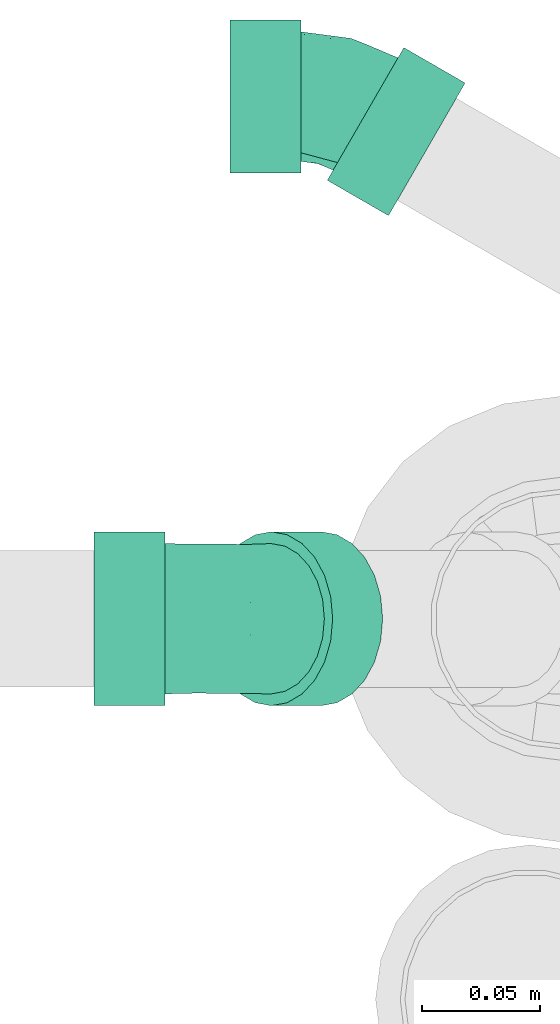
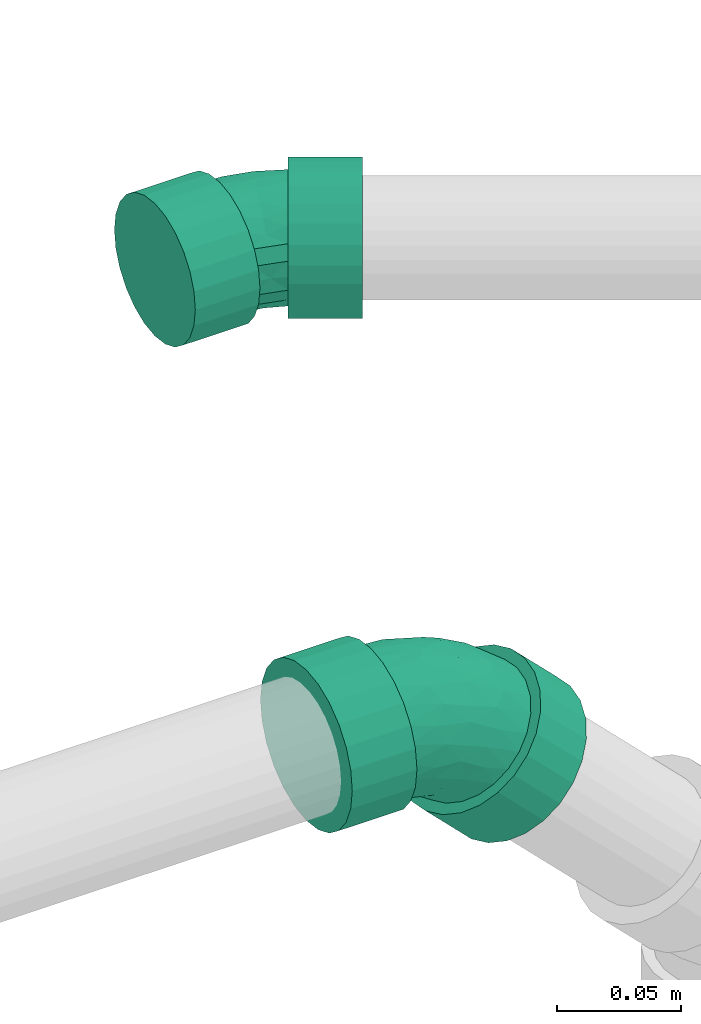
# One storey, part 56 of 78: 2 flow fittings.
"""IFC2X3 building model written with IfcOpenShell, lengths in millimetres."""

import ifcopenshell
import ifcopenshell.guid

model = None  # the IFC model being written
_history = None  # IfcOwnerHistory: only IFC2X3 demands one
_inside = {}  # id of a spatial element -> (the spatial element, [elements in it])
_under = {}  # id of a project, library or spatial element -> (it, [spatial elements below it])
_declared = {}  # id of a project -> (the project, [libraries it declares])
_typed = {}  # id of a type object -> (the type object, [elements of that type])
_made_of = {}  # id of a material, layer set ... -> (it, [elements and type objects made of it])


def new_model(schema):
    """Start an empty IFC model of exactly this schema.

    Asked for "IFC4X3", IfcOpenShell would pick the latest addendum, in which some entities
    have other attributes; the version numbers below select the first issue.
    IFC2X3 requires an IfcOwnerHistory on every rooted entity: one is made here for all.
    """
    global model, _history
    if schema == "IFC4X3":
        model = ifcopenshell.file(schema_version=(4, 3, 0, 0))
    else:
        model = ifcopenshell.file(schema=schema)
    _inside.clear()
    _under.clear()
    _declared.clear()
    _typed.clear()
    _made_of.clear()
    _history = None
    if model.schema == "IFC2X3":
        org = make("IfcOrganization", Name="unknown")
        user = make(
            "IfcPersonAndOrganization",
            ThePerson=make("IfcPerson", FamilyName="unknown"),
            TheOrganization=org,
        )
        app = make(
            "IfcApplication",
            ApplicationDeveloper=org,
            Version="unknown",
            ApplicationFullName="unknown",
            ApplicationIdentifier="unknown",
        )
        _history = make(
            "IfcOwnerHistory",
            OwningUser=user,
            OwningApplication=app,
            ChangeAction="ADDED",
            CreationDate=0,
        )
    return model


def make(cls, **values):
    """One entity of the class cls with the attributes given. An attribute that is None is left unset."""
    return model.create_entity(
        cls, **{name: value for name, value in values.items() if value is not None}
    )


def entity(cls, *values):
    """Any entity or typed value of the class cls, its attributes in the order of the schema. None: left unset."""
    e = model.create_entity(cls)
    for i, value in enumerate(values):
        if value is not None:
            e[i] = value
    return e


def rooted(cls, **values):
    """An entity with a GlobalId (a new one), such as an element, a storey or a relation."""
    return make(cls, GlobalId=ifcopenshell.guid.new(), OwnerHistory=_history, **values)


def si_unit(unit_type, name, prefix=None):
    """IfcSIUnit, for example si_unit("LENGTHUNIT", "METRE", prefix="MILLI")."""
    return make("IfcSIUnit", UnitType=unit_type, Prefix=prefix, Name=name)


def converted_unit(unit_type, name, factor, base, dimensions=None, offset=None):
    """IfcConversionBasedUnit, such as the inch: factor (a typed value) times the base unit."""
    return make(
        "IfcConversionBasedUnit"
        if offset is None
        else "IfcConversionBasedUnitWithOffset",
        ConversionOffset=offset,
        Dimensions=None
        if dimensions is None
        else entity("IfcDimensionalExponents", *dimensions),
        UnitType=unit_type,
        Name=name,
        ConversionFactor=make(
            "IfcMeasureWithUnit", ValueComponent=factor, UnitComponent=base
        ),
    )


def derived_unit(unit_type, elements):
    """IfcDerivedUnit: a product of units, each with its exponent."""
    return make(
        "IfcDerivedUnit",
        Elements=[
            make("IfcDerivedUnitElement", Unit=unit, Exponent=power)
            for unit, power in elements
        ],
        UnitType=unit_type,
    )


def assignment(units):
    """IfcUnitAssignment: the units of a project."""
    return None if units is None else make("IfcUnitAssignment", Units=units)


def point(xyz):
    """IfcCartesianPoint."""
    return None if xyz is None else make("IfcCartesianPoint", Coordinates=xyz)


def direction(xyz):
    """IfcDirection."""
    return None if xyz is None else make("IfcDirection", DirectionRatios=xyz)


def frame(location, z_axis=None, x_axis=None):
    """IfcAxis2Placement3D, a coordinate frame: its origin and axes. An axis left out is left unset."""
    return make(
        "IfcAxis2Placement3D",
        Location=point(location),
        Axis=direction(z_axis),
        RefDirection=direction(x_axis),
    )


def origin_with_axes():
    """The frame at (0, 0, 0) with the z axis (0, 0, 1) and the x axis (1, 0, 0) written out."""
    return frame((0.0, 0.0, 0.0), z_axis=(0.0, 0.0, 1.0), x_axis=(1.0, 0.0, 0.0))


def place(relative_to, where):
    """IfcLocalPlacement: puts the frame where relative to a parent placement (None: the world)."""
    return make(
        "IfcLocalPlacement", PlacementRelTo=relative_to, RelativePlacement=where
    )


def context(
    kind, dimensions, precision=None, world=None, true_north=None, identifier=None
):
    """IfcGeometricRepresentationContext, for example the 3D "Model" context."""
    return make(
        "IfcGeometricRepresentationContext",
        ContextIdentifier=identifier,
        ContextType=kind,
        CoordinateSpaceDimension=dimensions,
        Precision=precision,
        WorldCoordinateSystem=world,
        TrueNorth=true_north,
    )


def subcontext(parent, identifier, kind, view, scale=None):
    """IfcGeometricRepresentationSubContext, for example "Body" below "Model"."""
    return make(
        "IfcGeometricRepresentationSubContext",
        ContextIdentifier=identifier,
        ContextType=kind,
        ParentContext=parent,
        TargetScale=scale,
        TargetView=view,
    )


def project(units=None, contexts=None):
    """IfcProject with its units and contexts."""
    return rooted(
        "IfcProject",
        Name="project",
        RepresentationContexts=contexts,
        UnitsInContext=assignment(units),
    )


def spatial(cls, under=None, at=None, **own):
    """A site, building, storey or space (cls), placed at a placement, below another one or the project."""
    s = rooted(cls, ObjectPlacement=at, **own)
    if under is not None:
        _under.setdefault(under.id(), (under, []))[1].append(s)
    return s


def faces_of(points, faces, orient=None, outer=None):
    """IfcFace entities. A face is a list of loops; a loop is a list of indices into points, from 0.

    orient and outer hold one flag for each loop. By default every Orientation is true, the
    first loop of a face is its IfcFaceOuterBound and the others are IfcFaceBound.
    """
    made = []
    for i, loops in enumerate(faces):
        bounds = []
        for j, loop in enumerate(loops):
            is_outer = j == 0 if outer is None else outer[i][j]
            bounds.append(
                make(
                    "IfcFaceOuterBound" if is_outer else "IfcFaceBound",
                    Bound=make("IfcPolyLoop", Polygon=[points[k] for k in loop]),
                    Orientation=True if orient is None else orient[i][j],
                )
            )
        made.append(make("IfcFace", Bounds=bounds))
    return made


def open_shell(faces, orient=None, outer=None):
    """The faces of one IfcOpenShell. surface_model builds it on its shared points."""
    return ("IfcOpenShell", faces, orient, outer)


def surface_model(cls, points, shells):
    """IfcFaceBasedSurfaceModel or IfcShellBasedSurfaceModel (cls): surfaces that need not close."""
    shared = [point(p) for p in points]
    made = [make(c, CfsFaces=faces_of(shared, fs, o, b)) for c, fs, o, b in shells]
    if cls == "IfcFaceBasedSurfaceModel":
        return make(cls, FbsmFaces=made)
    return make(cls, SbsmBoundary=made)


def shape(context_of_items, identifier, shape_type, items):
    """IfcShapeRepresentation: the items that make up one representation, for example the "Body"."""
    return make(
        "IfcShapeRepresentation",
        ContextOfItems=context_of_items,
        RepresentationIdentifier=identifier,
        RepresentationType=shape_type,
        Items=items,
    )


def source(mapping_origin, context_of_items, identifier, shape_type, items):
    """IfcRepresentationMap: a shape defined once, which mapped items show again and again."""
    return make(
        "IfcRepresentationMap",
        MappingOrigin=mapping_origin,
        MappedRepresentation=shape(context_of_items, identifier, shape_type, items),
    )


def transform(
    local_origin,
    x_axis=None,
    y_axis=None,
    z_axis=None,
    scale=None,
    scale2=None,
    scale3=None,
    uniform=True,
):
    """IfcCartesianTransformationOperator3D, or its non-uniform kind. x_axis, y_axis, z_axis: its Axis1, 2, 3."""
    if uniform:
        return make(
            "IfcCartesianTransformationOperator3D",
            Axis1=direction(x_axis),
            Axis2=direction(y_axis),
            LocalOrigin=point(local_origin),
            Scale=scale,
            Axis3=direction(z_axis),
        )
    return make(
        "IfcCartesianTransformationOperator3DnonUniform",
        Axis1=direction(x_axis),
        Axis2=direction(y_axis),
        LocalOrigin=point(local_origin),
        Scale=scale,
        Axis3=direction(z_axis),
        Scale2=scale2,
        Scale3=scale3,
    )


def mapped(mapping_source, mapping_target):
    """IfcMappedItem: shows the shape of a source again, moved by a transform."""
    return make(
        "IfcMappedItem", MappingSource=mapping_source, MappingTarget=mapping_target
    )


def made_of(thing, what):
    """Note that an element or type object is made of a material, layer set ...; save() writes the relation."""
    if what is not None:
        _made_of.setdefault(what.id(), (what, []))[1].append(thing)
    return thing


def type_object(cls, material=None, **own):
    """A type object (cls), such as IfcWallType, which elements share."""
    return made_of(rooted(cls, **own), material)


def element(
    cls,
    number,
    at=None,
    inside=None,
    cuts=None,
    type_object=None,
    material=None,
    context=None,
    identifier="Body",
    shape_type=None,
    held_by="IfcProductDefinitionShape",
    body=None,
    shapes=None,
    **own,
):
    """One element of the class cls, such as IfcWall. Its Tag is "e" and its number.

    at: its placement. inside: the storey or other place that contains it. cuts: it is an
    opening in that element (IfcRelVoidsElement). A single representation is given by context,
    identifier, shape_type and body (its items); several are given by shapes. held_by: the class
    of the entity that holds the representations. save() writes the other relations.
    """
    e = rooted(cls, Tag="e%d" % number, ObjectPlacement=at, **own)
    if body is not None:
        shapes = [shape(context, identifier, shape_type, body)]
    if shapes is not None:
        e.Representation = make(held_by, Representations=shapes)
    if inside is not None:
        _inside.setdefault(inside.id(), (inside, []))[1].append(e)
    if cuts is not None:
        rooted(
            "IfcRelVoidsElement", RelatingBuildingElement=cuts, RelatedOpeningElement=e
        )
    if type_object is not None:
        _typed.setdefault(type_object.id(), (type_object, []))[1].append(e)
    return made_of(e, material)


def aggregate(whole, parts):
    """IfcRelAggregates: a whole, such as a stair, and the parts it consists of."""
    return rooted("IfcRelAggregates", RelatingObject=whole, RelatedObjects=parts)


def save(model, path):
    """Write the relations noted so far, then the file.

    IfcRelAggregates (storeys below a building ...), IfcRelContainedInSpatialStructure (elements
    in a storey), IfcRelDefinesByType, IfcRelAssociatesMaterial and IfcRelDeclares: one each for
    every whole, place, type object, material and project.
    """
    for whole, parts in _under.values():
        aggregate(whole, parts)
    for where, things in _inside.values():
        rooted(
            "IfcRelContainedInSpatialStructure",
            RelatedElements=things,
            RelatingStructure=where,
        )
    for kind, things in _typed.values():
        rooted("IfcRelDefinesByType", RelatedObjects=things, RelatingType=kind)
    for what, things in _made_of.values():
        rooted("IfcRelAssociatesMaterial", RelatedObjects=things, RelatingMaterial=what)
    for by, libraries in _declared.values():
        rooted("IfcRelDeclares", RelatingContext=by, RelatedDefinitions=libraries)
    model.write(path)


model = new_model("IFC2X3")

# Units and contexts
model_context = context("Model", 3, precision=0.01, world=frame((0.0, 4.29681676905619e-09, 0.0)), true_north=direction((4.01073788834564e-13, 1.0)))
plan_context = context("Plan", 3, precision=0.01, world=frame((0.0, 4.29681676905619e-09, 0.0)), true_north=direction((4.01073788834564e-13, 1.0)))
body_context = subcontext(model_context, "Body", "Model", "MODEL_VIEW")
ifc_project = project(units=[converted_unit("PLANEANGLEUNIT", "DEGREE", entity("IfcPositiveLengthMeasure", 0.0174532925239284), si_unit("PLANEANGLEUNIT", "RADIAN"), dimensions=[0, 0, 0, 0, 0, 0, 0]), si_unit("AREAUNIT", "SQUARE_METRE"), si_unit("LENGTHUNIT", "METRE", prefix="MILLI"), si_unit("MASSUNIT", "GRAM", prefix="KILO"), si_unit("POWERUNIT", "WATT"), si_unit("PRESSUREUNIT", "PASCAL"), si_unit("FORCEUNIT", "NEWTON", prefix="KILO"), si_unit("ELECTRICVOLTAGEUNIT", "VOLT"), si_unit("ELECTRICCURRENTUNIT", "AMPERE"), si_unit("THERMODYNAMICTEMPERATUREUNIT", "DEGREE_CELSIUS"), si_unit("TIMEUNIT", "SECOND"), si_unit("VOLUMEUNIT", "CUBIC_METRE"), derived_unit("LINEARVELOCITYUNIT", [(si_unit("LENGTHUNIT", "METRE"), 1), (si_unit("TIMEUNIT", "SECOND"), -1)]), derived_unit("VOLUMETRICFLOWRATEUNIT", [(si_unit("VOLUMEUNIT", "CUBIC_METRE"), 1), (si_unit("TIMEUNIT", "SECOND"), -1)]), derived_unit("THERMALTRANSMITTANCEUNIT", [(si_unit("POWERUNIT", "WATT"), 1), (si_unit("THERMODYNAMICTEMPERATUREUNIT", "KELVIN"), -1), (si_unit("AREAUNIT", "SQUARE_METRE"), -1)]), derived_unit("SOUNDPRESSUREUNIT", [(si_unit("PRESSUREUNIT", "PASCAL"), 1)])], contexts=[model_context, plan_context])

# Site, building, storey
site_placement = place(None, frame((0.0, -4.29681676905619e-09, 0.0), z_axis=(0.0, 0.0, 1.0), x_axis=(1.0, 0.0, 0.0)))
site = spatial("IfcSite", under=ifc_project, at=site_placement, Name="ENGM", CompositionType="ELEMENT")
building_placement = place(site_placement, frame((0.0, 4.29681676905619e-09, 0.0), z_axis=(0.0, 0.0, 1.0), x_axis=(1.0, 0.0, 0.0)))
building = spatial("IfcBuilding", under=site, at=building_placement, Name="TH", CompositionType="ELEMENT")
storey_placement = place(building_placement, frame((0.0, 0.0, 205200.0), z_axis=(0.0, 0.0, 1.0), x_axis=(1.0, 0.0, 0.0)))
storey = spatial("IfcBuildingStorey", under=building, at=storey_placement, Name="Nivå D + 1,2 m", CompositionType="ELEMENT", Elevation=205200.0)

# Flow fittings
pipe_fitting_type_1 = type_object("IfcPipeFittingType", Name="magi_sewer_bend_001", PredefinedType="BEND")
shared_shape_1 = source(origin_with_axes(), body_context, "Body", "SurfaceModel", [
    surface_model("IfcShellBasedSurfaceModel", [(-56.42682, -9.55042, -35.64266), (-56.42682, -18.45, -31.95634), (-56.42682, -26.09224, -26.09224), (-56.42682, -35.64266, -9.55042), (-56.42682, -31.95634, -18.45), (-56.42682, 9.55042, -35.64266), (-56.42682, 0.0, -36.9), (-56.42682, 18.45, -31.95634), (-56.42682, 31.95634, -18.45), (-56.42682, 26.09224, -26.09224), (-56.42682, -36.9, 0.0), (-56.42682, -35.64266, 9.55042), (-56.42682, 35.64266, -9.55042), (-56.42682, -31.95634, 18.45), (-56.42682, -26.09224, 26.09224), (-56.42682, 18.45, 31.95634), (-56.42682, -9.55042, 35.64266), (-56.42682, -18.45, 31.95634), (-56.42682, 35.64266, 9.55042), (-56.42682, 31.95634, 18.45), (-56.42682, 36.9, 0.0), (-56.42682, 26.09224, 26.09224), (-56.42682, 9.55042, 35.64266), (-56.42682, 0.0, 36.9), (-26.42683, -26.09224, 26.09224), (-26.42683, 0.0, 36.9), (-26.42683, -9.55042, 35.64266), (-26.42683, -18.45, 31.95634), (-26.42683, -31.95634, 18.45), (-26.42683, -35.64266, 9.55042), (-26.42683, 35.64266, 9.55042), (-26.42683, 18.45, 31.95634), (-26.42683, 31.95634, 18.45), (-26.42683, 26.09224, 26.09224), (-26.42683, 9.55042, 35.64266), (-26.42683, 35.64266, -9.55042), (-26.42683, 36.9, 0.0), (-26.42683, -26.09224, -26.09224), (-26.42683, -36.9, 0.0), (-26.42683, -35.64266, -9.55042), (-26.42683, -31.95634, -18.45), (-26.42683, -18.45, -31.95634), (-26.42683, -9.55042, -35.64266), (-26.42683, 9.55042, -35.64266), (-26.42683, 0.0, -36.9), (-26.42683, 31.95634, -18.45), (-26.42683, 18.45, -31.95634), (-26.42683, 26.09224, -26.09224), (14.69662, 65.10296, 9.55042), (17.30325, 62.49634, 18.45), (21.44979, 58.34979, 26.09224), (13.80755, 65.99203, 0.0), (33.14662, 46.65296, -35.64266), (39.89979, 39.89979, 36.9), (17.30325, 62.49634, -18.45), (26.85367, 52.94591, -31.95634), (21.44979, 58.34979, -26.09224), (46.65296, 33.14662, 35.64266), (62.49634, 17.30325, 18.45), (65.10296, 14.69662, 9.55042), (65.99203, 13.80755, 0.0), (39.89979, 39.89979, -36.9), (46.65296, 33.14662, -35.64266), (0.23659, 37.13659, 26.09224), (-3.90996, 41.28313, 18.45), (-6.51658, 43.88975, 9.55042), (5.64047, 31.73271, -31.95634), (-3.90996, 41.28313, -18.45), (0.23659, 37.13659, -26.09224), (-7.40565, 44.77883, 0.0), (-6.51658, 43.88975, -9.55042), (11.93342, 25.43976, -35.64266), (18.68659, 18.68659, -36.9), (14.69662, 65.10296, -9.55042), (11.93342, 25.43976, 35.64266), (18.68659, 18.68659, 36.9), (33.14662, 46.65296, 35.64266), (26.85367, 52.94591, 31.95634), (5.64047, 31.73271, 31.95634), (25.43976, 11.93342, 35.64266), (31.73271, 5.64047, 31.95634), (52.94591, 26.85367, 31.95634), (37.13659, 0.23659, 26.09224), (41.28313, -3.90996, 18.45), (58.34979, 21.44979, 26.09224), (43.88975, -6.51658, 9.55042), (44.77883, -7.40565, 0.0), (62.49634, 17.30325, -18.45), (41.28313, -3.90996, -18.45), (37.13659, 0.23659, -26.09224), (52.94591, 26.85367, -31.95634), (31.73271, 5.64047, -31.95634), (25.43976, 11.93342, -35.64266), (58.34979, 21.44979, -26.09224), (65.10296, 14.69662, -9.55042), (43.88975, -6.51658, -9.55042), (2.73659, 34.63659, 22.55671), (-3.10152, 40.47469, 8.25633), (-0.84809, 38.22127, 15.95), (8.12473, -19.61484, 17.7769), (-7.05738, -18.02915, 24.61529), (-10.3009, -24.39746, 18.67868), (-10.6584, -29.82405, 0.0), (-1.65784, -28.6391, 0.0), (-6.80885, -29.38889, 5.44723), (-26.42683, -15.95, 27.62621), (-26.42683, -22.55671, 22.55671), (38.22127, -0.84809, 15.95), (34.63659, 2.73659, 22.55671), (24.53544, -9.96777, 18.67868), (-12.63998, -11.69747, 29.15496), (3.27541, -7.90755, 28.75303), (12.84848, 24.52469, 30.81303), (0.94687, 19.1776, 29.77411), (5.76678, 15.10003, 31.43602), (-26.42683, -8.25633, 30.81303), (-9.52072, -3.07141, 31.47738), (-3.03412, 7.32502, 31.7879), (-15.98337, 4.42042, 31.70641), (-26.42683, 0.0, 31.9), (-26.42683, 22.55671, 22.55671), (-9.06126, 21.87581, 26.04333), (-14.06781, 26.75285, 20.13105), (29.96494, 7.40823, 27.62621), (24.52469, 12.84848, 30.81303), (17.20917, 0.66646, 29.15496), (-26.42683, 8.25633, 30.81303), (-26.42683, 15.95, 27.62621), (-12.25699, 13.27446, 29.822), (-26.42683, -30.81303, 8.25633), (7.40823, 29.96494, 27.62621), (12.3108, -20.87814, 12.57203), (-5.71978, -27.59833, 11.07805), (9.90414, -23.91071, 6.93348), (-26.42683, -27.62621, 15.95), (-26.42683, 27.62621, 15.95), (-13.14137, 31.72606, 13.1059), (-26.42683, 30.81303, 8.25633), (40.47469, -3.10152, 8.25633), (25.59567, -15.9665, 5.44723), (28.62541, -13.55216, 0.0), (-12.77736, 34.18175, 6.70257), (-26.42683, 31.9, 0.0), (23.55946, -15.47048, 11.07805), (18.68659, 18.68659, 31.9), (8.90398, 4.56035, 31.47738), (17.73885, -7.75821, 24.61529), (-14.21922, 34.32824, 0.0), (-3.87012, 41.24329, 0.0), (5.35435, -12.92655, 25.43848), (-26.42683, -31.9, 0.0), (9.88267, -23.85887, 0.0), (21.42317, -19.07863, 0.0), (41.24329, -3.87012, 0.0), (-26.42683, -8.25633, -30.81303), (-26.42683, 0.0, -31.9), (-9.52072, -3.07141, -31.47738), (-6.80885, -29.38889, -5.44723), (9.90414, -23.91071, -6.93348), (18.68659, 18.68659, -31.9), (24.52469, 12.84848, -30.81303), (8.90398, 4.56035, -31.47738), (-14.23015, 12.89108, -29.77411), (-14.75506, 6.5996, -31.43602), (-26.42683, 8.25633, -30.81303), (-26.42683, 27.62621, -15.95), (-8.96968, 28.86457, -20.13105), (-26.42683, 22.55671, -22.55671), (29.96494, 7.40823, -27.62621), (34.63659, 2.73659, -22.55671), (17.73885, -7.75821, -24.61529), (-13.14137, 31.72606, -13.1059), (38.22127, -0.84809, -15.95), (40.47469, -3.10152, -8.25633), (23.55946, -15.47048, -11.07805), (-26.42683, 30.81303, -8.25633), (-15.13519, 33.20511, -6.70257), (7.40823, 29.96494, -27.62621), (12.84848, 24.52469, -30.81303), (-0.71946, 18.05346, -29.822), (-26.42683, -30.81303, -8.25633), (-26.42683, 15.95, -27.62621), (-5.71978, -27.59833, -11.07805), (2.73659, 34.63659, -22.55671), (-9.06126, 21.87581, -26.04333), (-26.42683, -27.62621, -15.95), (-10.3009, -24.39746, -18.67868), (-26.42683, -22.55671, -22.55671), (-7.05738, -18.02915, -24.61529), (-26.42683, -15.95, -27.62621), (5.35435, -12.92655, -25.43848), (8.12473, -19.61484, -17.7769), (-12.63998, -11.69747, -29.15496), (17.20917, 0.66646, -29.15496), (-3.10152, 40.47469, -8.25633), (-0.84809, 38.22127, -15.95), (3.27541, -7.90755, -28.75303), (25.59567, -15.9665, -5.44723), (8.17623, 14.42766, -31.70641), (6.05802, -23.46812, -12.57203), (24.53544, -9.96777, -18.67868), (-3.03412, 7.32502, -31.7879)], [open_shell([[[0, 1, 2]], [[3, 2, 4]], [[0, 5, 6]], [[7, 8, 9]], [[10, 11, 12]], [[11, 13, 14]], [[15, 11, 14]], [[16, 14, 17]], [[18, 15, 19]], [[20, 12, 18]], [[19, 15, 21]], [[18, 11, 15]], [[22, 15, 23]], [[18, 12, 11]], [[24, 25, 26]], [[24, 26, 27]], [[24, 28, 29]], [[25, 24, 30]], [[30, 24, 29]], [[31, 32, 33]], [[31, 34, 25]], [[31, 30, 32]], [[25, 30, 31]], [[30, 35, 36]], [[30, 29, 35]], [[37, 38, 39]], [[37, 39, 40]], [[37, 41, 42]], [[38, 37, 43]], [[44, 37, 42]], [[45, 46, 47]], [[45, 35, 38]], [[38, 43, 46]], [[46, 45, 38]], [[43, 37, 44]], [[38, 35, 29]], [[35, 12, 36]], [[45, 8, 35]], [[7, 47, 46]], [[45, 47, 9]], [[5, 46, 43]], [[35, 8, 12]], [[12, 20, 36]], [[5, 7, 46]], [[9, 47, 7]], [[9, 8, 45]], [[6, 5, 43]], [[43, 44, 6]], [[42, 0, 44]], [[41, 1, 42]], [[39, 38, 3]], [[37, 2, 41]], [[41, 2, 1]], [[1, 0, 42]], [[4, 40, 3]], [[4, 2, 37]], [[3, 40, 39]], [[38, 10, 3]], [[4, 37, 40]], [[44, 0, 6]], [[29, 11, 38]], [[28, 13, 29]], [[17, 24, 27]], [[28, 24, 14]], [[16, 27, 26]], [[29, 13, 11]], [[11, 10, 38]], [[16, 17, 27]], [[14, 24, 17]], [[14, 13, 28]], [[23, 16, 26]], [[26, 25, 23]], [[15, 31, 33]], [[19, 32, 30]], [[33, 32, 21]], [[18, 30, 36]], [[22, 34, 15]], [[34, 22, 25]], [[34, 31, 15]], [[33, 21, 15]], [[32, 19, 21]], [[18, 19, 30]], [[36, 20, 18]], [[25, 22, 23]], [[48, 49, 50]], [[51, 48, 50]], [[52, 50, 53]], [[54, 55, 56]], [[50, 52, 55]], [[53, 57, 52]], [[58, 59, 60]], [[61, 52, 62]], [[62, 52, 57]], [[63, 64, 65]], [[66, 67, 68]], [[65, 69, 70]], [[71, 52, 72]], [[66, 55, 71]], [[54, 68, 67]], [[66, 68, 56]], [[73, 67, 70]], [[71, 55, 52]], [[52, 61, 72]], [[73, 54, 67]], [[56, 68, 54]], [[56, 55, 66]], [[51, 73, 70]], [[70, 69, 51]], [[65, 48, 69]], [[64, 49, 65]], [[74, 75, 76]], [[63, 50, 64]], [[64, 50, 49]], [[49, 48, 65]], [[77, 78, 76]], [[77, 50, 63]], [[76, 78, 74]], [[75, 53, 76]], [[77, 63, 78]], [[69, 48, 51]], [[79, 57, 75]], [[80, 81, 79]], [[58, 82, 83]], [[80, 82, 84]], [[59, 83, 85]], [[79, 81, 57]], [[57, 53, 75]], [[59, 58, 83]], [[84, 82, 58]], [[84, 81, 80]], [[60, 59, 85]], [[85, 86, 60]], [[87, 88, 89]], [[90, 91, 92]], [[89, 91, 93]], [[62, 92, 72]], [[94, 95, 87]], [[95, 94, 86]], [[95, 88, 87]], [[89, 93, 87]], [[91, 90, 93]], [[62, 90, 92]], [[72, 61, 62]], [[86, 94, 60]], [[96, 97, 98]], [[99, 100, 101]], [[102, 103, 104]], [[105, 106, 100]], [[107, 108, 109]], [[110, 100, 111]], [[101, 100, 106]], [[112, 113, 114]], [[115, 105, 110]], [[116, 117, 118]], [[119, 115, 116]], [[120, 121, 122]], [[123, 124, 125]], [[118, 126, 119]], [[127, 128, 121]], [[129, 102, 104]], [[130, 96, 121]], [[131, 132, 133]], [[121, 120, 127]], [[106, 134, 101]], [[135, 122, 136]], [[137, 135, 136]], [[138, 139, 140]], [[141, 142, 137]], [[143, 131, 133]], [[132, 104, 133]], [[127, 126, 128]], [[144, 114, 145]], [[108, 123, 146]], [[98, 97, 136]], [[145, 124, 144]], [[99, 101, 132]], [[108, 146, 109]], [[117, 114, 113]], [[146, 123, 125]], [[134, 132, 101]], [[139, 138, 143]], [[99, 109, 146]], [[118, 128, 126]], [[99, 131, 109]], [[137, 136, 141]], [[134, 129, 132]], [[147, 141, 148]], [[100, 149, 111]], [[97, 141, 136]], [[111, 145, 116]], [[98, 136, 122]], [[111, 125, 145]], [[98, 122, 96]], [[117, 116, 145]], [[112, 130, 113]], [[113, 121, 128]], [[110, 116, 115]], [[135, 120, 122]], [[143, 138, 107]], [[143, 107, 109]], [[149, 99, 146]], [[96, 122, 121]], [[121, 113, 130]], [[117, 113, 128]], [[100, 110, 105]], [[116, 110, 111]], [[145, 125, 124]], [[146, 125, 111]], [[129, 150, 102]], [[133, 103, 151]], [[129, 104, 132]], [[103, 133, 104]], [[139, 133, 152]], [[140, 139, 152]], [[140, 153, 138]], [[133, 139, 143]], [[145, 114, 117]], [[144, 112, 114]], [[116, 118, 119]], [[128, 118, 117]], [[99, 149, 100]], [[146, 111, 149]], [[148, 141, 97]], [[141, 147, 142]], [[109, 131, 143]], [[132, 131, 99]], [[152, 133, 151]], [[154, 155, 156]], [[103, 157, 158]], [[159, 160, 161]], [[162, 163, 164]], [[165, 166, 167]], [[168, 169, 170]], [[171, 166, 165]], [[172, 173, 174]], [[175, 176, 171]], [[177, 178, 179]], [[180, 157, 102]], [[181, 162, 164]], [[157, 180, 182]], [[183, 184, 166]], [[182, 185, 186]], [[186, 187, 188]], [[187, 189, 188]], [[190, 191, 188]], [[180, 185, 182]], [[187, 186, 185]], [[192, 189, 154]], [[193, 161, 160]], [[194, 195, 171]], [[196, 192, 156]], [[142, 147, 176]], [[191, 186, 188]], [[148, 194, 176]], [[196, 156, 161]], [[183, 177, 184]], [[171, 165, 175]], [[195, 166, 171]], [[192, 188, 189]], [[179, 184, 177]], [[163, 156, 155]], [[184, 179, 162]], [[167, 184, 181]], [[173, 140, 197]], [[198, 178, 159]], [[193, 160, 168]], [[199, 174, 158]], [[169, 200, 170]], [[196, 193, 170]], [[169, 172, 200]], [[201, 198, 161]], [[200, 191, 170]], [[201, 161, 156]], [[197, 140, 152]], [[198, 179, 178]], [[201, 163, 162]], [[157, 182, 158]], [[191, 199, 186]], [[170, 190, 196]], [[172, 174, 200]], [[194, 171, 176]], [[191, 200, 174]], [[195, 183, 166]], [[167, 166, 184]], [[184, 162, 181]], [[201, 162, 179]], [[156, 192, 154]], [[188, 192, 196]], [[170, 193, 168]], [[161, 193, 196]], [[102, 157, 103]], [[102, 150, 180]], [[199, 158, 182]], [[197, 158, 174]], [[158, 152, 151]], [[173, 153, 140]], [[158, 197, 152]], [[173, 197, 174]], [[156, 163, 201]], [[155, 164, 163]], [[161, 198, 159]], [[179, 198, 201]], [[191, 190, 170]], [[188, 196, 190]], [[142, 176, 175]], [[176, 147, 148]], [[186, 199, 182]], [[174, 199, 191]], [[103, 158, 151]], [[76, 50, 77]], [[62, 87, 90]], [[90, 87, 93]], [[60, 94, 87]], [[82, 85, 83]], [[88, 91, 89]], [[66, 70, 67]], [[0, 2, 3]], [[3, 10, 0]], [[0, 10, 8]], [[0, 7, 5]], [[0, 8, 7]], [[10, 12, 8]], [[15, 14, 16]], [[15, 16, 23]], [[76, 53, 50]], [[51, 54, 73]], [[54, 51, 55]], [[51, 50, 55]], [[81, 87, 57]], [[60, 81, 84]], [[58, 60, 84]], [[87, 81, 60]], [[57, 87, 62]], [[82, 86, 85]], [[86, 80, 88]], [[80, 86, 82]], [[88, 80, 79]], [[88, 95, 86]], [[88, 92, 91]], [[92, 88, 75]], [[75, 72, 92]], [[75, 88, 79]], [[65, 75, 74]], [[65, 74, 78]], [[63, 65, 78]], [[65, 70, 72]], [[71, 72, 66]], [[70, 66, 72]], [[75, 65, 72]], [[181, 164, 155]], [[181, 155, 154]], [[154, 165, 181]], [[167, 181, 165]], [[165, 154, 175]], [[187, 185, 189]], [[154, 189, 185]], [[150, 129, 180]], [[175, 154, 185]], [[129, 185, 180]], [[137, 175, 185]], [[134, 137, 185]], [[135, 137, 120]], [[126, 127, 120]], [[120, 137, 134]], [[126, 120, 134]], [[106, 105, 134]], [[134, 185, 129]], [[105, 115, 134]], [[115, 126, 134]], [[126, 115, 119]], [[142, 175, 137]], [[178, 172, 159]], [[195, 178, 177]], [[107, 172, 178]], [[195, 177, 183]], [[178, 195, 97]], [[168, 172, 169]], [[172, 168, 160]], [[172, 153, 173]], [[172, 160, 159]], [[172, 138, 153]], [[195, 194, 97]], [[178, 97, 107]], [[96, 130, 112]], [[97, 96, 107]], [[112, 107, 96]], [[107, 123, 108]], [[138, 172, 107]], [[107, 124, 123]], [[124, 107, 144]], [[112, 144, 107]], [[97, 194, 148]]])]),
])
flow_fitting_1_placement = place(storey_placement, frame((898962.05473, 483269.58758, 5238.46713999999), z_axis=(0.0, -1.0, 0.0), x_axis=(-0.707106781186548, 0.0, 0.707106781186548)))
element("IfcFlowFitting", 1, at=flow_fitting_1_placement, inside=storey, type_object=pipe_fitting_type_1, Name="magi_sewer_bend_001", context=body_context, shape_type="MappedRepresentation", body=[
    mapped(shared_shape_1, transform((0.0, 0.0, 0.0), scale=1.0)),
])
pipe_fitting_type_2 = type_object("IfcPipeFittingType", Name="magi_sewer_bend_001 2", PredefinedType="BEND")
shared_shape_2 = source(origin_with_axes(), body_context, "Body", "SurfaceModel", [
    surface_model("IfcShellBasedSurfaceModel", [(-44.7372, -16.25, -28.14582), (-44.7372, 0.0, -32.5), (-44.7372, -8.41162, -31.39259), (-44.7372, -31.39259, -8.41162), (-44.7372, -22.98097, -22.98097), (-44.7372, 16.25, -28.14582), (-44.7372, -28.14582, -16.25), (-44.7372, 31.39259, 8.41162), (-44.7372, 22.98097, -22.98097), (-44.7372, 8.41162, -31.39259), (-44.7372, 31.39259, -8.41162), (-44.7372, 28.14582, -16.25), (-44.7372, -32.5, 0.0), (-44.7372, -31.39259, 8.41162), (-44.7372, 0.0, 32.5), (-44.7372, -28.14582, 16.25), (-44.7372, -16.25, 28.14582), (-44.7372, -22.98097, 22.98097), (-44.7372, -8.41162, 31.39259), (-44.7372, 22.98097, 22.98097), (-44.7372, 28.14582, 16.25), (-44.7372, 32.5, 0.0), (-44.7372, 8.41162, 31.39259), (-44.7372, 16.25, 28.14582), (-14.73721, 0.0, 32.5), (-14.73721, -8.41162, 31.39259), (-14.73721, -16.25, 28.14582), (-14.73721, -28.14582, 16.25), (-14.73721, -31.39259, 8.41162), (-14.73721, -22.98097, 22.98097), (-14.73721, 31.39259, 8.41162), (-14.73721, 22.98097, 22.98097), (-14.73721, 16.25, 28.14582), (-14.73721, 8.41162, 31.39259), (-14.73721, 28.14582, 16.25), (-14.73721, 31.39259, -8.41162), (-14.73721, 32.5, 0.0), (-14.73721, -16.25, -28.14582), (-14.73721, -31.39259, -8.41162), (-14.73721, -22.98097, -22.98097), (-14.73721, -28.14582, -16.25), (-14.73721, -8.41162, -31.39259), (-14.73721, 0.0, -32.5), (-14.73721, 22.98097, -22.98097), (-14.73721, 28.14582, -16.25), (-14.73721, 16.25, -28.14582), (-14.73721, 8.41162, -31.39259), (-14.73721, -32.5, 0.0), (24.67064, 46.7436, 16.25), (22.49356, 50.51443, 0.0), (23.04726, 49.55538, 8.41162), (27.25307, 42.27071, -22.98097), (34.53775, 29.65328, 31.39259), (24.67064, 46.7436, -16.25), (23.04726, 49.55538, -8.41162), (34.53775, 29.65328, -31.39259), (30.61856, 36.44152, -28.14582), (42.94937, 15.08393, -31.39259), (42.94937, 15.08393, 31.39259), (46.86856, 8.29569, 28.14582), (50.23404, 2.4665, 22.98097), (50.23404, 2.4665, -22.98097), (46.86856, 8.29569, -28.14582), (38.74356, 22.3686, -32.5), (54.43985, -4.81818, -8.41162), (52.81647, -2.0064, -16.25), (29.01279, -20.77722, 0.0), (16.9686, 0.08393, 31.39259), (16.9686, 0.08393, -31.39259), (24.25328, -12.5335, -22.98097), (20.88779, -6.70431, -28.14582), (8.55698, 14.65328, -31.39259), (12.76279, 7.3686, -32.5), (8.55698, 14.65328, 31.39259), (1.27231, 27.27071, 22.98097), (4.63779, 21.44151, 28.14582), (-1.31012, 31.7436, 16.25), (-2.9335, 34.55538, 8.41162), (-3.48721, 35.51443, 0.0), (-1.31012, 31.7436, -16.25), (-2.9335, 34.55538, -8.41162), (1.27231, 27.27071, -22.98097), (4.63779, 21.44151, -28.14582), (30.61856, 36.44152, 28.14582), (12.76279, 7.3686, 32.5), (27.25307, 42.27071, 22.98097), (38.74356, 22.3686, 32.5), (20.88779, -6.70431, 28.14582), (52.81647, -2.0064, 16.25), (24.25328, -12.5335, 22.98097), (26.83571, -17.0064, 16.25), (54.43985, -4.81818, 8.41162), (28.45909, -19.81818, 8.41162), (54.99355, -5.77722, 0.0), (26.83571, -17.0064, -16.25), (28.45909, -19.81818, -8.41162), (-14.73721, 13.75, -23.8157), (-14.73721, 7.11752, -26.56296), (-14.73721, 0.0, -27.5), (-14.73721, -27.5, 0.0), (-14.73721, 26.56296, -7.11752), (-14.73721, 23.8157, -13.75), (-14.73721, 19.44544, -19.44544), (-14.73721, 23.8157, 13.75), (-14.73721, -7.11752, -26.56296), (-14.73721, -13.75, -23.8157), (-14.73721, -19.44544, -19.44544), (-14.73721, -23.8157, -13.75), (-14.73721, -26.56296, -7.11752), (-14.73721, 26.56296, 7.11752), (-14.73721, -13.75, 23.8157), (-14.73721, 13.75, 23.8157), (-14.73721, 19.44544, 19.44544), (-14.73721, 0.0, 27.5), (-14.73721, 7.11752, 26.56296), (-14.73721, -19.44544, 19.44544), (-14.73721, -23.8157, 13.75), (-14.73721, -26.56296, 7.11752), (-14.73721, -7.11752, 26.56296), (-14.73721, 27.5, 0.0), (12.76279, 7.3686, -27.5), (9.20403, 13.53256, -26.56296), (5.88779, 19.27645, -23.8157), (0.85495, 27.9936, -13.75), (-0.51869, 30.3728, -7.11752), (3.04008, 24.20884, -19.44544), (-0.51869, 30.3728, 7.11752), (0.85495, 27.9936, 13.75), (24.67064, -13.2564, 13.75), (19.63779, -4.53925, 23.8157), (22.48551, -9.47164, 19.44544), (12.76279, 7.3686, 27.5), (16.32156, 1.20465, 26.56296), (5.26439, -19.64699, 16.11957), (-0.7939, -15.80426, 21.48589), (2.38216, -8.89033, 25.14077), (-1.89485, -2.69454, 27.19165), (-0.41263, -24.33345, 10.00274), (0.0674, -25.68291, 5.06295), (10.3879, -23.07799, 5.11037), (-1.28345, 4.78991, 27.33382), (9.20403, 13.53256, 26.56296), (-6.08124, 22.6955, 17.07608), (-4.73686, 17.67822, 22.10309), (11.75965, -12.01294, 21.56769), (-3.04212, 11.58713, 25.60195), (-7.61968, 28.43704, 0.0), (5.88779, 19.27645, 23.8157), (6.61537, -24.68888, 0.0), (13.8457, -21.69398, 0.0), (-1.14374, -25.71039, 0.0), (13.95211, -20.31525, 10.05857), (3.04008, 24.20884, 19.44544), (26.51279, -16.4471, 0.0), (26.04427, -15.6356, 7.11752), (-0.98721, 31.1843, 0.0), (0.58698, -2.19063, -27.17613), (-2.35366, 4.56289, -27.32867), (16.32156, 1.20465, -26.56296), (19.63779, -4.53925, -23.8157), (5.92157, -7.69404, -25.19977), (-6.08124, 22.6955, -17.07608), (4.98528, -23.24681, -9.80116), (-4.84555, -25.56338, -8.4538), (-2.90891, -21.17818, -16.37795), (-4.73686, 17.67821, -22.10309), (15.68199, -19.10726, -11.21886), (26.04427, -15.6356, -7.11752), (14.3044, -21.51369, -5.98942), (22.48551, -9.47164, -19.44544), (24.67064, -13.2564, -13.75), (10.83519, -17.78524, -16.30235), (-3.15672, -12.51974, -23.95512), (3.97805, -14.84629, -21.36837), (-3.21542, 11.54331, -25.601), (2.55855, -25.21842, -4.88969)], [open_shell([[[0, 1, 2]], [[3, 0, 4]], [[5, 0, 3]], [[3, 4, 6]], [[3, 7, 8]], [[1, 5, 9]], [[1, 0, 5]], [[8, 10, 11]], [[5, 3, 8]], [[8, 7, 10]], [[3, 12, 13]], [[14, 13, 15]], [[16, 15, 17]], [[16, 18, 14]], [[16, 14, 15]], [[13, 14, 7]], [[7, 19, 20]], [[21, 10, 7]], [[19, 22, 23]], [[19, 7, 14]], [[22, 19, 14]], [[7, 3, 13]], [[24, 25, 26]], [[24, 26, 27]], [[27, 28, 24]], [[27, 26, 29]], [[24, 28, 30]], [[24, 31, 32]], [[32, 33, 24]], [[31, 30, 34]], [[30, 31, 24]], [[30, 35, 36]], [[30, 28, 37]], [[28, 38, 37]], [[39, 38, 40]], [[41, 30, 37]], [[37, 38, 39]], [[30, 41, 42]], [[35, 43, 44]], [[35, 30, 43]], [[45, 42, 46]], [[42, 45, 43]], [[42, 43, 30]], [[38, 28, 47]], [[35, 10, 36]], [[44, 11, 35]], [[5, 43, 45]], [[44, 43, 8]], [[9, 45, 46]], [[35, 11, 10]], [[10, 21, 36]], [[9, 5, 45]], [[8, 43, 5]], [[8, 11, 44]], [[1, 9, 46]], [[46, 42, 1]], [[2, 42, 41]], [[0, 41, 37]], [[6, 40, 38]], [[3, 38, 47]], [[41, 0, 2]], [[0, 37, 39]], [[0, 39, 4]], [[39, 40, 4]], [[4, 40, 6]], [[6, 38, 3]], [[47, 12, 3]], [[42, 2, 1]], [[28, 13, 47]], [[27, 15, 28]], [[16, 29, 26]], [[27, 29, 17]], [[18, 26, 25]], [[28, 15, 13]], [[13, 12, 47]], [[18, 16, 26]], [[17, 29, 16]], [[17, 15, 27]], [[14, 18, 25]], [[25, 24, 14]], [[23, 32, 31]], [[20, 34, 30]], [[31, 34, 19]], [[7, 30, 36]], [[33, 23, 22]], [[33, 32, 23]], [[22, 14, 33]], [[31, 19, 23]], [[34, 20, 19]], [[7, 20, 30]], [[36, 21, 7]], [[33, 14, 24]], [[48, 49, 50]], [[51, 48, 52]], [[49, 53, 54]], [[53, 49, 51]], [[51, 55, 56]], [[51, 49, 48]], [[51, 57, 55]], [[58, 59, 60]], [[57, 58, 60]], [[57, 61, 62]], [[63, 55, 57]], [[61, 64, 65]], [[66, 67, 68]], [[69, 68, 70]], [[66, 68, 69]], [[68, 71, 72]], [[68, 67, 73]], [[74, 73, 75]], [[74, 76, 77]], [[73, 74, 78]], [[77, 78, 74]], [[79, 78, 80]], [[78, 79, 81]], [[71, 55, 72]], [[82, 56, 71]], [[53, 81, 79]], [[82, 81, 51]], [[54, 79, 80]], [[71, 56, 55]], [[55, 63, 72]], [[54, 53, 79]], [[51, 81, 53]], [[51, 56, 82]], [[49, 54, 80]], [[80, 78, 49]], [[50, 78, 77]], [[48, 77, 76]], [[83, 75, 73]], [[52, 73, 84]], [[77, 48, 50]], [[48, 76, 74]], [[48, 74, 85]], [[74, 75, 85]], [[85, 75, 83]], [[83, 73, 52]], [[84, 86, 52]], [[78, 50, 49]], [[67, 58, 84]], [[87, 59, 67]], [[88, 89, 90]], [[87, 89, 60]], [[91, 90, 92]], [[67, 59, 58]], [[58, 86, 84]], [[91, 88, 90]], [[60, 89, 88]], [[60, 59, 87]], [[93, 91, 92]], [[92, 66, 93]], [[65, 94, 69]], [[62, 70, 68]], [[69, 70, 61]], [[57, 68, 72]], [[95, 65, 64]], [[95, 94, 65]], [[64, 93, 95]], [[69, 61, 65]], [[70, 62, 61]], [[57, 62, 68]], [[72, 63, 57]], [[95, 93, 66]], [[96, 97, 98]], [[96, 98, 99]], [[96, 100, 101]], [[102, 96, 101]], [[96, 99, 103]], [[104, 105, 98]], [[105, 106, 98]], [[107, 108, 106]], [[99, 106, 108]], [[106, 99, 98]], [[103, 100, 96]], [[103, 109, 100]], [[99, 110, 103]], [[111, 112, 113]], [[113, 112, 103]], [[114, 111, 113]], [[115, 110, 116]], [[116, 99, 117]], [[118, 113, 110]], [[110, 99, 116]], [[103, 110, 113]], [[119, 100, 109]], [[120, 121, 122]], [[123, 124, 122]], [[123, 122, 125]], [[126, 127, 124]], [[128, 129, 130]], [[129, 131, 132]], [[131, 129, 128]], [[116, 133, 115]], [[134, 135, 110]], [[110, 115, 134]], [[128, 130, 133]], [[113, 118, 136]], [[118, 110, 135]], [[137, 138, 139]], [[136, 140, 113]], [[113, 140, 114]], [[131, 141, 140]], [[133, 116, 137]], [[129, 132, 135]], [[112, 142, 103]], [[143, 112, 111]], [[144, 133, 130]], [[115, 133, 134]], [[114, 145, 111]], [[146, 109, 126]], [[116, 117, 137]], [[146, 119, 109]], [[126, 109, 103]], [[118, 135, 136]], [[114, 140, 145]], [[143, 145, 147]], [[138, 148, 139]], [[149, 139, 148]], [[136, 131, 140]], [[129, 144, 130]], [[99, 150, 138]], [[136, 132, 131]], [[133, 144, 134]], [[137, 151, 133]], [[152, 127, 142]], [[134, 144, 135]], [[135, 144, 129]], [[153, 154, 149]], [[117, 138, 137]], [[143, 142, 112]], [[127, 126, 103]], [[155, 146, 126]], [[139, 154, 151]], [[133, 151, 128]], [[154, 139, 149]], [[141, 145, 140]], [[147, 152, 143]], [[152, 142, 143]], [[99, 138, 117]], [[103, 142, 127]], [[141, 147, 145]], [[145, 143, 111]], [[137, 139, 151]], [[128, 151, 154]], [[148, 138, 150]], [[132, 136, 135]], [[98, 156, 104]], [[120, 157, 121]], [[158, 159, 160]], [[156, 98, 157]], [[161, 102, 101]], [[162, 163, 164]], [[102, 161, 165]], [[166, 167, 168]], [[124, 101, 100]], [[169, 170, 171]], [[172, 160, 173]], [[97, 174, 157]], [[175, 163, 162]], [[107, 163, 108]], [[175, 108, 163]], [[164, 163, 107]], [[106, 105, 172]], [[121, 174, 122]], [[108, 175, 150]], [[107, 106, 164]], [[160, 172, 104]], [[174, 165, 122]], [[165, 161, 125]], [[173, 164, 106]], [[100, 119, 146]], [[153, 168, 167]], [[146, 155, 124]], [[123, 161, 101]], [[166, 171, 170]], [[124, 123, 101]], [[161, 123, 125]], [[164, 173, 171]], [[121, 157, 174]], [[104, 156, 160]], [[98, 97, 157]], [[102, 165, 96]], [[174, 97, 96]], [[156, 157, 120]], [[158, 160, 156]], [[159, 173, 160]], [[165, 174, 96]], [[173, 159, 169]], [[168, 175, 162]], [[162, 164, 171]], [[175, 168, 148]], [[150, 99, 108]], [[153, 149, 168]], [[169, 171, 173]], [[125, 122, 165]], [[158, 156, 120]], [[168, 149, 148]], [[100, 146, 124]], [[166, 168, 162]], [[150, 175, 148]], [[171, 166, 162]], [[167, 166, 170]], [[106, 172, 173]], [[104, 172, 105]], [[52, 85, 83]], [[71, 81, 82]], [[169, 167, 170]], [[154, 153, 128]], [[126, 124, 155]], [[61, 60, 93]], [[61, 57, 60]], [[64, 61, 93]], [[87, 67, 66]], [[52, 48, 85]], [[52, 57, 51]], [[52, 86, 58]], [[91, 93, 60]], [[91, 60, 88]], [[57, 52, 58]], [[89, 66, 92]], [[89, 92, 90]], [[87, 66, 89]], [[66, 94, 95]], [[66, 69, 94]], [[81, 68, 73]], [[68, 81, 71]], [[73, 78, 81]], [[67, 84, 73]], [[153, 120, 122]], [[153, 122, 124]], [[158, 169, 159]], [[169, 158, 167]], [[167, 158, 153]], [[158, 120, 153]], [[124, 128, 153]], [[124, 127, 152]], [[141, 124, 147]], [[124, 152, 147]], [[141, 128, 124]], [[141, 131, 128]]])]),
])
flow_fitting_2_placement = place(storey_placement, frame((899008.01452, 483491.12945, 5317.07483), z_axis=(5.4999999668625e-05, 9.4999999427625e-05, 0.999999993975), x_axis=(-0.866025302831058, 0.500000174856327, 1.31375044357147e-07)))
element("IfcFlowFitting", 2, at=flow_fitting_2_placement, inside=storey, type_object=pipe_fitting_type_2, Name="magi_sewer_bend_001 2", context=body_context, shape_type="MappedRepresentation", body=[
    mapped(shared_shape_2, transform((0.0, 0.0, 0.0), scale=1.0)),
])

save(model, "model.ifc")
